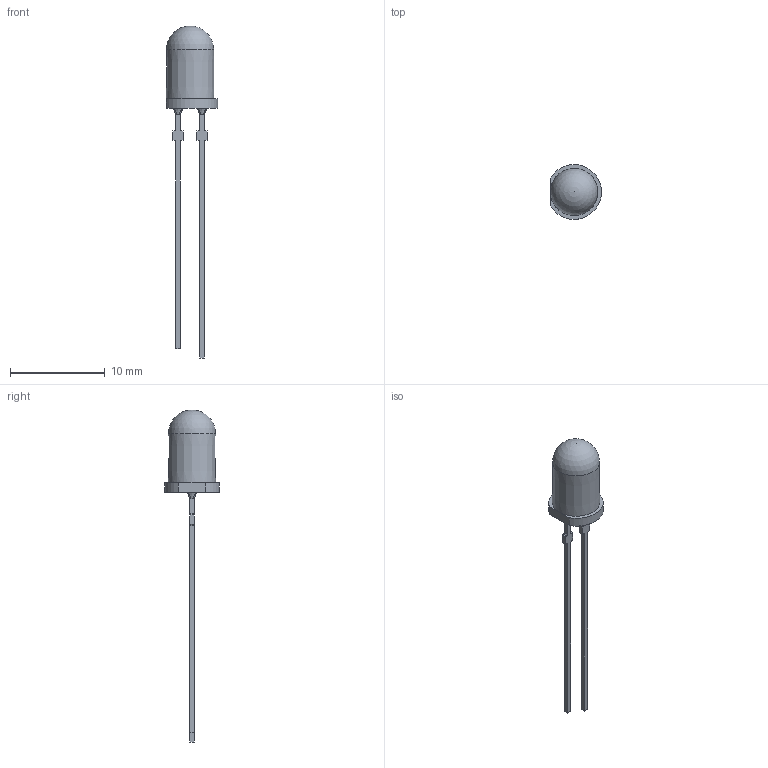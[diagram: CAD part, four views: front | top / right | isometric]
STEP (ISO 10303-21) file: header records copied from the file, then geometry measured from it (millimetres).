
FILE_DESCRIPTION(/* description */ ('LED-CASE %%c5mm'),/* implementation_level */ '2;1');
FILE_NAME(/* name */ 'C:\Users\mmangarudov\OneDrive - Vishay Intertechnology, Inc\Visibles\TLCx52_6.544-5258.7.stp',/* time_stamp */ '2023-10-25T07:40:49+02:00',/* author */ ('mmangarudov'),/* organization */ (''),/* preprocessor_version */ 'ST-DEVELOPER v18.1',/* originating_system */ 'Autodesk Inventor 2022',/* authorisation */ '');
FILE_SCHEMA (('AUTOMOTIVE_DESIGN { 1 0 10303 214 3 1 1 }'));
Length unit declared in the file: millimetre
Products named in the file (1): 6.544-5258.7
Bounding box: 5.4 x 5.8 x 35.1 mm (x, y, z)
Volume: 173.8 mm3; surface area: 277.1 mm2
Topology: 1 solids, 1 shells, 56 faces, 158 edges, 97 vertices
Faces by surface type: plane 29, bspline 16, cylinder 9, sphere 1, cone 1
Entity records: 2365 total; most frequent: CARTESIAN_POINT 1033, ORIENTED_EDGE 298, DIRECTION 214, EDGE_CURVE 149, VERTEX_POINT 97, LINE 86, VECTOR 86, AXIS2_PLACEMENT_3D 64
